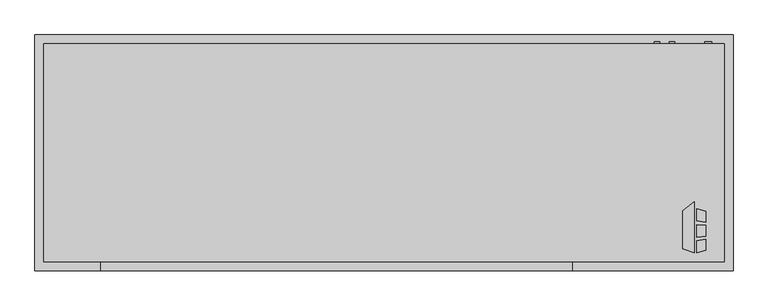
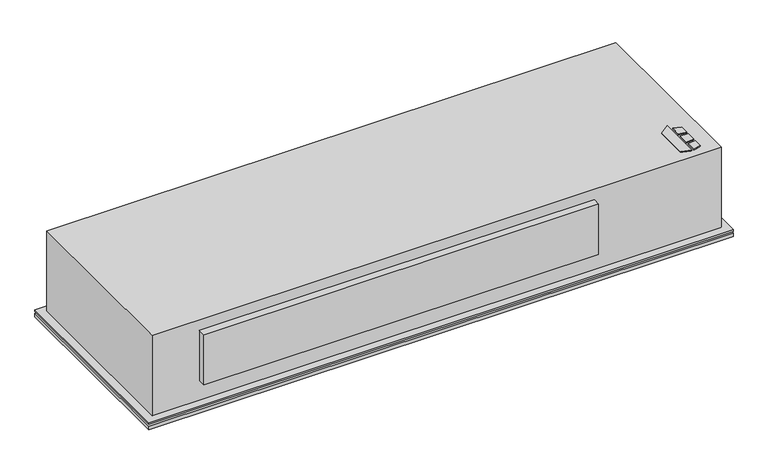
"""IFC4 building model written with IfcOpenShell, lengths in millimetres: proxy geometry, Horizontal_Telescoping_Fan_Coil_Unit_-_CBY_-_IEC_-_2-Pipe_Cool-EHeat_RH_2022 : Size 10 - 277v/60Hz/1Ph - 4 Row 8.0kW."""

import ifcopenshell
import ifcopenshell.guid

model = None  # the IFC model being written
_history = None  # IfcOwnerHistory: only IFC2X3 demands one
_inside = {}  # id of a spatial element -> (the spatial element, [elements in it])
_under = {}  # id of a project, library or spatial element -> (it, [spatial elements below it])
_declared = {}  # id of a project -> (the project, [libraries it declares])
_typed = {}  # id of a type object -> (the type object, [elements of that type])
_made_of = {}  # id of a material, layer set ... -> (it, [elements and type objects made of it])


def new_model(schema):
    """Start an empty IFC model of exactly this schema.

    Asked for "IFC4X3", IfcOpenShell would pick the latest addendum, in which some entities
    have other attributes; the version numbers below select the first issue.
    IFC2X3 requires an IfcOwnerHistory on every rooted entity: one is made here for all.
    """
    global model, _history
    if schema == "IFC4X3":
        model = ifcopenshell.file(schema_version=(4, 3, 0, 0))
    else:
        model = ifcopenshell.file(schema=schema)
    _inside.clear()
    _under.clear()
    _declared.clear()
    _typed.clear()
    _made_of.clear()
    _history = None
    if model.schema == "IFC2X3":
        org = make("IfcOrganization", Name="unknown")
        user = make(
            "IfcPersonAndOrganization",
            ThePerson=make("IfcPerson", FamilyName="unknown"),
            TheOrganization=org,
        )
        app = make(
            "IfcApplication",
            ApplicationDeveloper=org,
            Version="unknown",
            ApplicationFullName="unknown",
            ApplicationIdentifier="unknown",
        )
        _history = make(
            "IfcOwnerHistory",
            OwningUser=user,
            OwningApplication=app,
            ChangeAction="ADDED",
            CreationDate=0,
        )
    return model


def make(cls, **values):
    """One entity of the class cls with the attributes given. An attribute that is None is left unset."""
    return model.create_entity(
        cls, **{name: value for name, value in values.items() if value is not None}
    )


def rooted(cls, **values):
    """An entity with a GlobalId (a new one), such as an element, a storey or a relation."""
    return make(cls, GlobalId=ifcopenshell.guid.new(), OwnerHistory=_history, **values)


def si_unit(unit_type, name, prefix=None):
    """IfcSIUnit, for example si_unit("LENGTHUNIT", "METRE", prefix="MILLI")."""
    return make("IfcSIUnit", UnitType=unit_type, Prefix=prefix, Name=name)


def assignment(units):
    """IfcUnitAssignment: the units of a project."""
    return None if units is None else make("IfcUnitAssignment", Units=units)


def point(xyz):
    """IfcCartesianPoint."""
    return None if xyz is None else make("IfcCartesianPoint", Coordinates=xyz)


def direction(xyz):
    """IfcDirection."""
    return None if xyz is None else make("IfcDirection", DirectionRatios=xyz)


def frame(location, z_axis=None, x_axis=None):
    """IfcAxis2Placement3D, a coordinate frame: its origin and axes. An axis left out is left unset."""
    return make(
        "IfcAxis2Placement3D",
        Location=point(location),
        Axis=direction(z_axis),
        RefDirection=direction(x_axis),
    )


def frame_2d(location, x_axis=None):
    """IfcAxis2Placement2D, a coordinate frame in the plane: its origin and x axis."""
    return make(
        "IfcAxis2Placement2D", Location=point(location), RefDirection=direction(x_axis)
    )


def origin():
    """The frame at (0, 0, 0) with its axes left unset."""
    return frame((0.0, 0.0, 0.0))


def origin_with_axes():
    """The frame at (0, 0, 0) with the z axis (0, 0, 1) and the x axis (1, 0, 0) written out."""
    return frame((0.0, 0.0, 0.0), z_axis=(0.0, 0.0, 1.0), x_axis=(1.0, 0.0, 0.0))


def place(relative_to, where):
    """IfcLocalPlacement: puts the frame where relative to a parent placement (None: the world)."""
    return make(
        "IfcLocalPlacement", PlacementRelTo=relative_to, RelativePlacement=where
    )


def context(
    kind, dimensions, precision=None, world=None, true_north=None, identifier=None
):
    """IfcGeometricRepresentationContext, for example the 3D "Model" context."""
    return make(
        "IfcGeometricRepresentationContext",
        ContextIdentifier=identifier,
        ContextType=kind,
        CoordinateSpaceDimension=dimensions,
        Precision=precision,
        WorldCoordinateSystem=world,
        TrueNorth=true_north,
    )


def project(units=None, contexts=None):
    """IfcProject with its units and contexts."""
    return rooted(
        "IfcProject",
        Name="project",
        RepresentationContexts=contexts,
        UnitsInContext=assignment(units),
    )


def spatial(cls, under=None, at=None, **own):
    """A site, building, storey or space (cls), placed at a placement, below another one or the project."""
    s = rooted(cls, ObjectPlacement=at, **own)
    if under is not None:
        _under.setdefault(under.id(), (under, []))[1].append(s)
    return s


def polyline(points):
    """IfcPolyline through the points."""
    return make("IfcPolyline", Points=[point(p) for p in points])


def circle_curve(where, radius):
    """IfcCircle in the frame where."""
    return make("IfcCircle", Position=where, Radius=radius)


def trimmed(basis, trim1, trim2, sense, master):
    """IfcTrimmedCurve: the piece of a basis curve between two trims."""
    return make(
        "IfcTrimmedCurve",
        BasisCurve=basis,
        Trim1=trim1,
        Trim2=trim2,
        SenseAgreement=sense,
        MasterRepresentation=master,
    )


def segment(curve, same_sense, transition):
    """IfcCompositeCurveSegment."""
    return make(
        "IfcCompositeCurveSegment",
        Transition=transition,
        SameSense=same_sense,
        ParentCurve=curve,
    )


def composite_curve(segments, self_intersect=None):
    """IfcCompositeCurve: segments joined end to end."""
    return make("IfcCompositeCurve", Segments=segments, SelfIntersect=self_intersect)


def outline(outer, holes=None, kind="AREA"):
    """IfcArbitraryClosedProfileDef: a profile drawn as a closed curve; with holes, ...WithVoids."""
    if holes is None:
        return make("IfcArbitraryClosedProfileDef", ProfileType=kind, OuterCurve=outer)
    return make(
        "IfcArbitraryProfileDefWithVoids",
        ProfileType=kind,
        OuterCurve=outer,
        InnerCurves=holes,
    )


def extrude(swept, where, along, depth):
    """IfcExtrudedAreaSolid: the profile swept, set in the frame where, extruded along a direction by depth."""
    return make(
        "IfcExtrudedAreaSolid",
        SweptArea=swept,
        Position=where,
        ExtrudedDirection=direction(along),
        Depth=depth,
    )


def shape(context_of_items, identifier, shape_type, items):
    """IfcShapeRepresentation: the items that make up one representation, for example the "Body"."""
    return make(
        "IfcShapeRepresentation",
        ContextOfItems=context_of_items,
        RepresentationIdentifier=identifier,
        RepresentationType=shape_type,
        Items=items,
    )


def source(mapping_origin, context_of_items, identifier, shape_type, items):
    """IfcRepresentationMap: a shape defined once, which mapped items show again and again."""
    return make(
        "IfcRepresentationMap",
        MappingOrigin=mapping_origin,
        MappedRepresentation=shape(context_of_items, identifier, shape_type, items),
    )


def transform(
    local_origin,
    x_axis=None,
    y_axis=None,
    z_axis=None,
    scale=None,
    scale2=None,
    scale3=None,
    uniform=True,
):
    """IfcCartesianTransformationOperator3D, or its non-uniform kind. x_axis, y_axis, z_axis: its Axis1, 2, 3."""
    if uniform:
        return make(
            "IfcCartesianTransformationOperator3D",
            Axis1=direction(x_axis),
            Axis2=direction(y_axis),
            LocalOrigin=point(local_origin),
            Scale=scale,
            Axis3=direction(z_axis),
        )
    return make(
        "IfcCartesianTransformationOperator3DnonUniform",
        Axis1=direction(x_axis),
        Axis2=direction(y_axis),
        LocalOrigin=point(local_origin),
        Scale=scale,
        Axis3=direction(z_axis),
        Scale2=scale2,
        Scale3=scale3,
    )


def mapped(mapping_source, mapping_target):
    """IfcMappedItem: shows the shape of a source again, moved by a transform."""
    return make(
        "IfcMappedItem", MappingSource=mapping_source, MappingTarget=mapping_target
    )


def made_of(thing, what):
    """Note that an element or type object is made of a material, layer set ...; save() writes the relation."""
    if what is not None:
        _made_of.setdefault(what.id(), (what, []))[1].append(thing)
    return thing


def element(
    cls,
    number,
    at=None,
    inside=None,
    cuts=None,
    type_object=None,
    material=None,
    context=None,
    identifier="Body",
    shape_type=None,
    held_by="IfcProductDefinitionShape",
    body=None,
    shapes=None,
    **own,
):
    """One element of the class cls, such as IfcWall. Its Tag is "e" and its number.

    at: its placement. inside: the storey or other place that contains it. cuts: it is an
    opening in that element (IfcRelVoidsElement). A single representation is given by context,
    identifier, shape_type and body (its items); several are given by shapes. held_by: the class
    of the entity that holds the representations. save() writes the other relations.
    """
    e = rooted(cls, Tag="e%d" % number, ObjectPlacement=at, **own)
    if body is not None:
        shapes = [shape(context, identifier, shape_type, body)]
    if shapes is not None:
        e.Representation = make(held_by, Representations=shapes)
    if inside is not None:
        _inside.setdefault(inside.id(), (inside, []))[1].append(e)
    if cuts is not None:
        rooted(
            "IfcRelVoidsElement", RelatingBuildingElement=cuts, RelatedOpeningElement=e
        )
    if type_object is not None:
        _typed.setdefault(type_object.id(), (type_object, []))[1].append(e)
    return made_of(e, material)


def aggregate(whole, parts):
    """IfcRelAggregates: a whole, such as a stair, and the parts it consists of."""
    return rooted("IfcRelAggregates", RelatingObject=whole, RelatedObjects=parts)


def save(model, path):
    """Write the relations noted so far, then the file.

    IfcRelAggregates (storeys below a building ...), IfcRelContainedInSpatialStructure (elements
    in a storey), IfcRelDefinesByType, IfcRelAssociatesMaterial and IfcRelDeclares: one each for
    every whole, place, type object, material and project.
    """
    for whole, parts in _under.values():
        aggregate(whole, parts)
    for where, things in _inside.values():
        rooted(
            "IfcRelContainedInSpatialStructure",
            RelatedElements=things,
            RelatingStructure=where,
        )
    for kind, things in _typed.values():
        rooted("IfcRelDefinesByType", RelatedObjects=things, RelatingType=kind)
    for what, things in _made_of.values():
        rooted("IfcRelAssociatesMaterial", RelatedObjects=things, RelatingMaterial=what)
    for by, libraries in _declared.values():
        rooted("IfcRelDeclares", RelatingContext=by, RelatedDefinitions=libraries)
    model.write(path)


def mechanical_equipment_5886c7f6(model_context):
    return source(origin(), model_context, "Body", "SweptSolid", [
        extrude(outline(polyline([(988.7019761, -401.0078476), (1021.2602728, -375.5705184), (1021.2602728, -517.525), (988.7019761, -507.3054201), (988.7019761, -401.0078476)])), origin_with_axes(), (0.0, 0.0, 1.0), 3.175),
        extrude(outline(polyline([(1028.0186058, -428.879852), (1028.0186058, -394.3999379), (1054.1, -402.5865115), (1054.1, -432.0822446), (1028.0186058, -428.879852)])), origin_with_axes(), (0.0, 0.0, 1.0), 3.175),
        extrude(outline(polyline([(1054.1, -510.5365115), (1028.0186058, -517.525), (1028.0186058, -484.3036996), (1054.1, -480.7618564), (1054.1, -510.5365115)])), origin_with_axes(), (0.0, 0.0, 1.0), 3.175),
        extrude(outline(polyline([(1054.1, -441.1638277), (1054.1, -472.413983), (1028.0186058, -475.155248), (1028.0186058, -439.2975378), (1054.1, -441.1638277)])), origin_with_axes(), (0.0, 0.0, 1.0), 3.175),
        extrude(outline(composite_curve([segment(trimmed(circle_curve(frame_2d((-95.25, 958.85)), 7.9375), [point((-95.25, 966.7875))], [point((-95.25, 950.9125))], False, "CARTESIAN"), True, "CONTINUOUS"), segment(trimmed(circle_curve(frame_2d((-95.25, 958.85)), 7.9375), [point((-95.25, 950.9125))], [point((-95.25, 966.7875))], False, "CARTESIAN"), True, "CONTINUOUS")], self_intersect=False)), frame((0.0, 66.675, 0.0), z_axis=(0.0, 1.0, 0.0), x_axis=(0.0, 0.0, 1.0)), (0.0, 0.0, 1.0), 6.35),
        extrude(outline(composite_curve([segment(trimmed(circle_curve(frame_2d((-60.325, 917.575)), 7.9375), [point((-60.325, 925.5125))], [point((-60.325, 909.6375))], False, "CARTESIAN"), True, "CONTINUOUS"), segment(trimmed(circle_curve(frame_2d((-60.325, 917.575)), 7.9375), [point((-60.325, 909.6375))], [point((-60.325, 925.5125))], False, "CARTESIAN"), True, "CONTINUOUS")], self_intersect=False)), frame((0.0, 66.675, 0.0), z_axis=(0.0, 1.0, 0.0), x_axis=(0.0, 0.0, 1.0)), (0.0, 0.0, 1.0), 6.35),
        extrude(outline(composite_curve([segment(trimmed(circle_curve(frame_2d((-260.35, 1060.45)), 9.525), [point((-260.35, 1069.975))], [point((-260.35, 1050.925))], False, "CARTESIAN"), True, "CONTINUOUS"), segment(trimmed(circle_curve(frame_2d((-260.35, 1060.45)), 9.525), [point((-260.35, 1050.925))], [point((-260.35, 1069.975))], False, "CARTESIAN"), True, "CONTINUOUS")], self_intersect=False)), frame((0.0, 66.675, 0.0), z_axis=(0.0, 1.0, 0.0), x_axis=(0.0, 0.0, 1.0)), (0.0, 0.0, 1.0), 6.35),
        extrude(outline(polyline([(1130.3, 92.075), (1130.3, -568.325), (-825.5, -568.325), (-825.5, 92.075), (1130.3, 92.075)])), frame((0.0, 0.0, -311.15), z_axis=(0.0, 0.0, 1.0), x_axis=(1.0, 0.0, 0.0)), (0.0, 0.0, 1.0), 12.7),
        extrude(outline(polyline([(1130.3, 92.075), (1130.3, -568.325), (-825.5, -568.325), (-825.5, 92.075), (1130.3, 92.075)])), frame((0.0, 0.0, -292.1), z_axis=(0.0, 0.0, 1.0), x_axis=(1.0, 0.0, 0.0)), (0.0, 0.0, 1.0), 6.35),
        extrude(outline(polyline([(1104.9, 66.675), (1104.9, -542.925), (-800.1, -542.925), (-800.1, 66.675), (1104.9, 66.675)])), frame((0.0, 0.0, -298.45), z_axis=(0.0, 0.0, 1.0), x_axis=(1.0, 0.0, 0.0)), (0.0, 0.0, 1.0), 6.35),
        extrude(outline(polyline([(679.45, -568.325), (-641.35, -568.325), (-641.35, -542.925), (679.45, -542.925), (679.45, -568.325)])), frame((0.0, 0.0, -215.9), z_axis=(0.0, 0.0, 1.0), x_axis=(1.0, 0.0, 0.0)), (0.0, 0.0, 1.0), 177.8),
        extrude(outline(polyline([(-800.1, 66.675), (1104.9, 66.675), (1104.9, -542.925), (-800.1, -542.925), (-800.1, 66.675)])), frame((0.0, 0.0, -285.75), z_axis=(0.0, 0.0, 1.0), x_axis=(1.0, 0.0, 0.0)), (0.0, 0.0, 1.0), 285.75),
        extrude(outline(polyline([(939.8, -9.525), (939.8, -263.525), (-635.0, -263.525), (-635.0, -9.525), (939.8, -9.525)])), frame((0.0, 0.0, -317.5), z_axis=(0.0, 0.0, 1.0), x_axis=(1.0, 0.0, 0.0)), (0.0, 0.0, 1.0), 6.35),
    ])


if __name__ == "__main__":
    model = new_model("IFC4")
    model_context = context("Model", 3, world=origin())
    ifc_project = project(units=[si_unit("LENGTHUNIT", "METRE", prefix="MILLI")], contexts=[model_context])
    site = spatial("IfcSite", under=ifc_project)
    building = spatial("IfcBuilding", under=site)
    placement = place(None, origin())
    mechanical_equipment_shape = mechanical_equipment_5886c7f6(model_context)
    element("IfcBuildingElementProxy", 1, Name="Horizontal_Telescoping_Fan_Coil_Unit_-_CBY_-_IEC_-_2-Pipe_Cool-EHeat_RH_2022 : Size 10 - 277v/60Hz/1Ph - 4 Row 8.0kW", ObjectType="Horizontal_Telescoping_Fan_Coil_Unit_-_CBY_-_IEC_-_2-Pipe_Cool-EHeat_RH_2022 : Size 10 - 277v/60Hz/1Ph - 4 Row 8.0kW", at=placement, inside=building, context=model_context, shape_type="MappedRepresentation", body=[
        mapped(mechanical_equipment_shape, transform((0.0, 0.0, 0.0), x_axis=(1.0, 0.0, 0.0), y_axis=(0.0, 1.0, 0.0), z_axis=(0.0, 0.0, 1.0))),
    ])
    save(model, "model.ifc")
